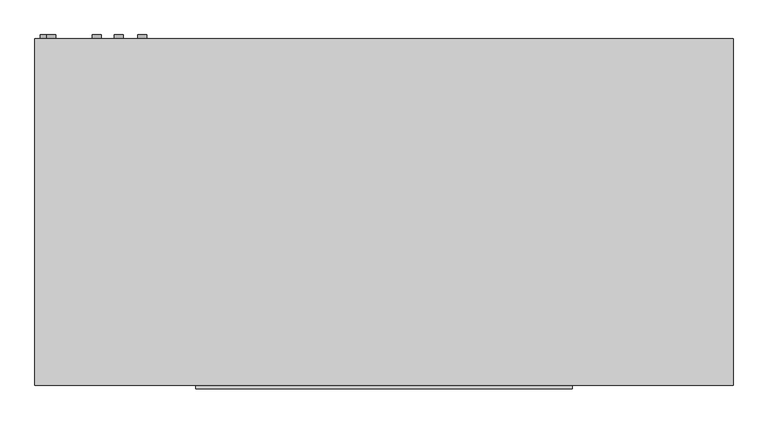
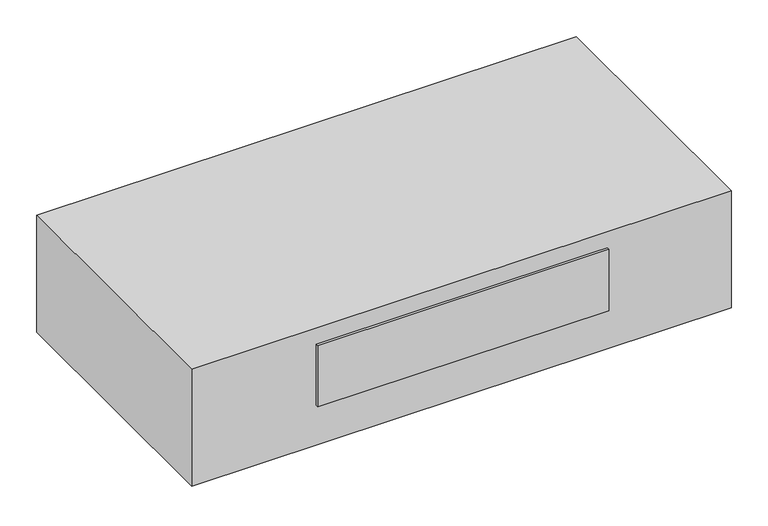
"""IFC4 building model written with IfcOpenShell, lengths in millimetres: proxy geometry, Exposed_Horizontal_Fan_Coil_Unit_-_42CGB_-_CARRIER_-_4-Pipe_FS-BR_LH_2022 : Size 04 - 277v/60Hz/1Ph - 4/1 Coil."""

from ifc_helpers import new_model, si_unit, point, frame, frame_2d, origin, place, context, project, spatial, polyline, circle_curve, trimmed, segment, composite_curve, outline, extrude, source, transform, mapped, element, save


def mechanical_equipment_c241eb8b(model_context):
    return source(origin(), model_context, "Body", "SweptSolid", [
        extrude(outline(composite_curve([segment(trimmed(circle_curve(frame_2d((-261.434158, -438.3546393)), 9.525), [point((-261.434158, -428.8296393))], [point((-261.434158, -447.8796393))], False, "CARTESIAN"), True, "CONTINUOUS"), segment(trimmed(circle_curve(frame_2d((-261.434158, -438.3546393)), 9.525), [point((-261.434158, -447.8796393))], [point((-261.434158, -428.8296393))], False, "CARTESIAN"), True, "CONTINUOUS")], self_intersect=False)), frame((0.0, 65.0875, 0.0), z_axis=(0.0, 1.0, 0.0), x_axis=(0.0, 0.0, 1.0)), (0.0, 0.0, 1.0), 6.35),
        extrude(outline(composite_curve([segment(trimmed(circle_curve(frame_2d((-85.725, -428.625)), 7.9375), [point((-85.725, -420.6875))], [point((-85.725, -436.5625))], False, "CARTESIAN"), True, "CONTINUOUS"), segment(trimmed(circle_curve(frame_2d((-85.725, -428.625)), 7.9375), [point((-85.725, -436.5625))], [point((-85.725, -420.6875))], False, "CARTESIAN"), True, "CONTINUOUS")], self_intersect=False)), frame((0.0, 65.0875, 0.0), z_axis=(0.0, 1.0, 0.0), x_axis=(0.0, 0.0, 1.0)), (0.0, 0.0, 1.0), 6.35),
        extrude(outline(composite_curve([segment(trimmed(circle_curve(frame_2d((-44.45, -349.25)), 7.9375), [point((-44.45, -341.3125))], [point((-44.45, -357.1875))], False, "CARTESIAN"), True, "CONTINUOUS"), segment(trimmed(circle_curve(frame_2d((-44.45, -349.25)), 7.9375), [point((-44.45, -357.1875))], [point((-44.45, -341.3125))], False, "CARTESIAN"), True, "CONTINUOUS")], self_intersect=False)), frame((0.0, 65.0875, 0.0), z_axis=(0.0, 1.0, 0.0), x_axis=(0.0, 0.0, 1.0)), (0.0, 0.0, 1.0), 6.35),
        extrude(outline(composite_curve([segment(trimmed(circle_curve(frame_2d((-95.25, -311.15)), 7.9375), [point((-95.25, -303.2125))], [point((-95.25, -319.0875))], False, "CARTESIAN"), True, "CONTINUOUS"), segment(trimmed(circle_curve(frame_2d((-95.25, -311.15)), 7.9375), [point((-95.25, -319.0875))], [point((-95.25, -303.2125))], False, "CARTESIAN"), True, "CONTINUOUS")], self_intersect=False)), frame((0.0, 65.0875, 0.0), z_axis=(0.0, 1.0, 0.0), x_axis=(0.0, 0.0, 1.0)), (0.0, 0.0, 1.0), 6.35),
        extrude(outline(composite_curve([segment(trimmed(circle_curve(frame_2d((-60.325, -269.875)), 7.9375), [point((-60.325, -261.9375))], [point((-60.325, -277.8125))], False, "CARTESIAN"), True, "CONTINUOUS"), segment(trimmed(circle_curve(frame_2d((-60.325, -269.875)), 7.9375), [point((-60.325, -277.8125))], [point((-60.325, -261.9375))], False, "CARTESIAN"), True, "CONTINUOUS")], self_intersect=False)), frame((0.0, 65.0875, 0.0), z_axis=(0.0, 1.0, 0.0), x_axis=(0.0, 0.0, 1.0)), (0.0, 0.0, 1.0), 6.35),
        extrude(outline(polyline([(-457.2, 65.0875), (762.0, 65.0875), (762.0, -541.3375), (-457.2, -541.3375), (-457.2, 65.0875)])), frame((0.0, 0.0, -279.4), z_axis=(0.0, 0.0, 1.0), x_axis=(1.0, 0.0, 0.0)), (0.0, 0.0, 1.0), 279.4),
        extrude(outline(polyline([(481.0125, -547.6875), (-176.2125, -547.6875), (-176.2125, -541.3375), (481.0125, -541.3375), (481.0125, -547.6875)])), frame((0.0, 0.0, -184.15), z_axis=(0.0, 0.0, 1.0), x_axis=(1.0, 0.0, 0.0)), (0.0, 0.0, 1.0), 146.05),
        extrude(outline(polyline([(565.15, -11.1125), (565.15, -265.1125), (-260.35, -265.1125), (-260.35, -11.1125), (565.15, -11.1125)])), frame((0.0, 0.0, -285.75), z_axis=(0.0, 0.0, 1.0), x_axis=(1.0, 0.0, 0.0)), (0.0, 0.0, 1.0), 6.35),
    ])


if __name__ == "__main__":
    model = new_model("IFC4")
    model_context = context("Model", 3, world=origin())
    ifc_project = project(units=[si_unit("LENGTHUNIT", "METRE", prefix="MILLI")], contexts=[model_context])
    site = spatial("IfcSite", under=ifc_project)
    building = spatial("IfcBuilding", under=site)
    placement = place(None, origin())
    mechanical_equipment_shape = mechanical_equipment_c241eb8b(model_context)
    element("IfcBuildingElementProxy", 1, Name="Exposed_Horizontal_Fan_Coil_Unit_-_42CGB_-_CARRIER_-_4-Pipe_FS-BR_LH_2022 : Size 04 - 277v/60Hz/1Ph - 4/1 Coil", ObjectType="Exposed_Horizontal_Fan_Coil_Unit_-_42CGB_-_CARRIER_-_4-Pipe_FS-BR_LH_2022 : Size 04 - 277v/60Hz/1Ph - 4/1 Coil", at=placement, inside=building, context=model_context, shape_type="MappedRepresentation", body=[
        mapped(mechanical_equipment_shape, transform((0.0, 0.0, 0.0), x_axis=(1.0, 0.0, 0.0), y_axis=(0.0, 1.0, 0.0), z_axis=(0.0, 0.0, 1.0))),
    ])
    save(model, "model.ifc")
